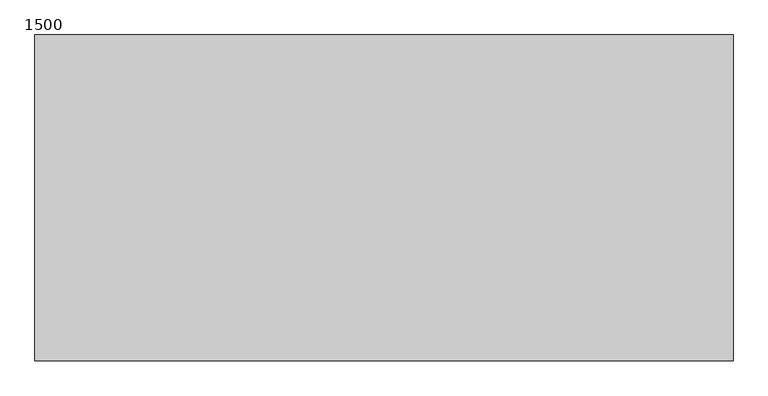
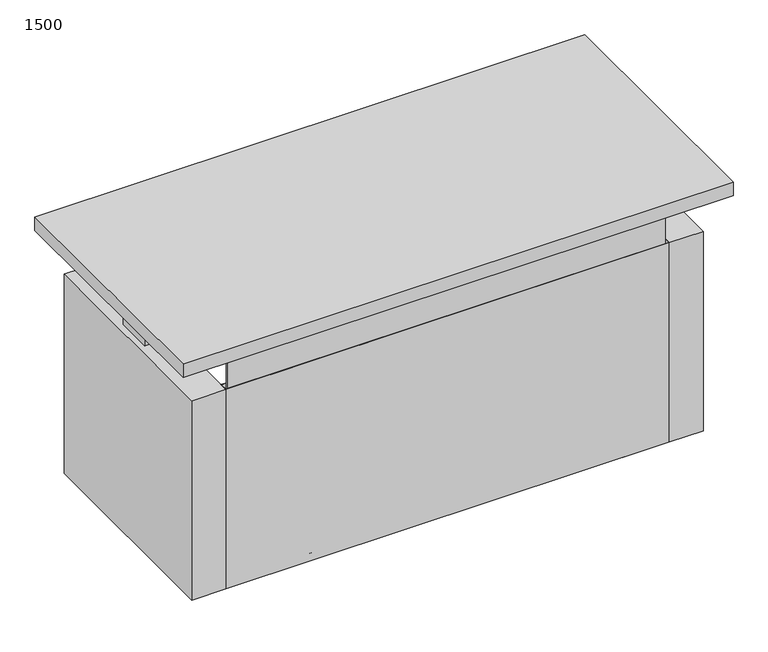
"""IFC4 building model written with IfcOpenShell, lengths in millimetres: furniture geometry, BK Library - Exlibris - Straight - Counter : 1500."""

from ifc_helpers import new_model, si_unit, frame, origin, origin_with_axes, place, context, project, spatial, polyline, outline, extrude, source, transform, mapped, element, save


def furniture_1500_e777cc68(model_context):
    return source(origin(), model_context, "Body", "SweptSolid", [
        extrude(outline(polyline([(-587.75, 126.25), (-587.75, -123.75), (-714.75, -123.75), (-714.75, 126.25), (-587.75, 126.25)])), frame((0.0, 0.0, 687.0), z_axis=(0.0, 0.0, 1.0), x_axis=(1.0, 0.0, 0.0)), (0.0, 0.0, 1.0), 4.0),
        extrude(outline(polyline([(587.75, -123.75), (587.75, 126.25), (714.75, 126.25), (714.75, -123.75), (587.75, -123.75)])), frame((0.0, 0.0, 687.0), z_axis=(0.0, 0.0, 1.0), x_axis=(1.0, 0.0, 0.0)), (0.0, 0.0, 1.0), 4.0),
        extrude(outline(polyline([(568.7, -198.75), (568.7, -298.75), (-568.7, -298.75), (-568.7, -198.75), (568.7, -198.75)])), origin_with_axes(), (0.0, 0.0, 1.0), 22.0),
        extrude(outline(polyline([(568.7, -240.75), (568.7, -290.75), (-568.7, -290.75), (-568.7, -240.75), (568.7, -240.75)])), frame((0.0, 0.0, 139.0), z_axis=(0.0, 0.0, 1.0), x_axis=(1.0, 0.0, 0.0)), (0.0, 0.0, 1.0), 22.0),
        extrude(outline(polyline([(-750.0, -350.0), (-750.0, 350.0), (750.0, 350.0), (750.0, -350.0), (-750.0, -350.0)])), frame((0.0, 0.0, 691.0), z_axis=(0.0, 0.0, 1.0), x_axis=(1.0, 0.0, 0.0)), (0.0, 0.0, 1.0), 39.0),
        extrude(outline(polyline([(-697.5, 302.5), (-605.0, 302.5), (-605.0, -300.0), (-697.5, -300.0), (-697.5, 302.5)])), origin_with_axes(), (0.0, 0.0, 1.0), 575.0000153),
        extrude(outline(polyline([(697.5, -300.0), (605.0, -300.0), (605.0, 302.5), (697.5, 302.5), (697.5, -300.0)])), origin_with_axes(), (0.0, 0.0, 1.0), 575.0000153),
        extrude(outline(polyline([(-603.75, -277.95), (-603.75, -298.75), (603.75, -298.75), (603.75, -277.95), (588.7, -277.95), (588.7, -276.7), (605.0, -276.7), (605.0, -300.0), (-605.0, -300.0), (-605.0, -276.7), (-588.7, -276.7), (-588.7, -277.95), (-603.75, -277.95)])), origin_with_axes(), (0.0, 0.0, 1.0), 575.0000153),
        extrude(outline(polyline([(-597.5, -293.75), (-597.5, -290.75), (597.5, -290.75), (597.5, -293.75), (-597.5, -293.75)])), frame((0.0, 0.0, 139.0), z_axis=(0.0, 0.0, 1.0), x_axis=(1.0, 0.0, 0.0)), (0.0, 0.0, 1.0), 552.0),
        extrude(outline(polyline([(-621.25, 51.25), (-621.25, -48.75), (-681.25, -48.75), (-681.25, 51.25), (-621.25, 51.25)])), frame((0.0, 0.0, 575.0000153), z_axis=(0.0, 0.0, 1.0), x_axis=(1.0, 0.0, 0.0)), (0.0, 0.0, 1.0), 111.9999847),
        extrude(outline(polyline([(681.25, 51.25), (681.25, -48.75), (621.25, -48.75), (621.25, 51.25), (681.25, 51.25)])), frame((0.0, 0.0, 575.0000153), z_axis=(0.0, 0.0, 1.0), x_axis=(1.0, 0.0, 0.0)), (0.0, 0.0, 1.0), 111.9999847),
    ])


if __name__ == "__main__":
    model = new_model("IFC4")
    model_context = context("Model", 3, world=origin())
    ifc_project = project(units=[si_unit("LENGTHUNIT", "METRE", prefix="MILLI")], contexts=[model_context])
    site = spatial("IfcSite", under=ifc_project)
    building = spatial("IfcBuilding", under=site)
    placement = place(None, origin())
    furniture_1500_shape = furniture_1500_e777cc68(model_context)
    element("IfcFurniture", 1, ObjectType="BK Library - Exlibris - Straight - Counter : 1500", at=placement, inside=building, context=model_context, shape_type="MappedRepresentation", body=[
        mapped(furniture_1500_shape, transform((0.0, 0.0, 0.0), x_axis=(1.0, 0.0, 0.0), y_axis=(0.0, 1.0, 0.0), z_axis=(0.0, 0.0, 1.0))),
    ])
    save(model, "model.ifc")
